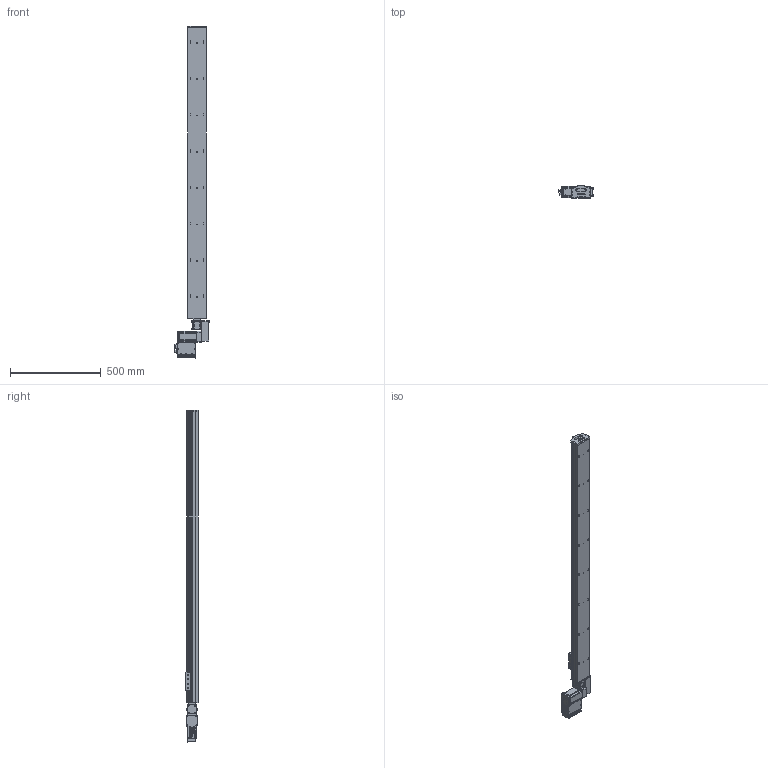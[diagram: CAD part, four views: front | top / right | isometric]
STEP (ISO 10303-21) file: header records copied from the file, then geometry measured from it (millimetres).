
FILE_DESCRIPTION (( 'STEP AP203' ), '1' );
FILE_NAME ('S10 TBN LH S1600.STEP', '2012-06-18T09:44:15', ( 'Conseil Régional Haute-Normandie' ), ( 'Conseil Régional Haute-Normandie' ), 'SwSTEP 2.0', 'SolidWorks 2010', '' );
FILE_SCHEMA (( 'CONFIG_CONTROL_DESIGN' ));
Products named in the file (29): T_X2_00F4_X0_le Arri_X2_00E8_X0_re_5; Cvis M5 L30_Default; embout; palette tbn; Vis M5 L16-2_Default_1; vis M5 L5_Default; BU45 Carte d''axe A11_5; axe 1600; S10 TBN LH S1600; Assem1_7; T_X2_00F4_X0_le contre le moteur_5; BU41 Carte Alimentation P05_3; Colonnette_3; Moteur 60BLDC90A_3; Couvercle_3; T_X2_00F4_X0_le fond_3; Connecteur rond D10 3cts_5; Connecteur rond D12 4cts_5; Sub D 9cts 90_X2_00B_X0__3; Radiateur profil_X2_00E9_X0_ 100x25_3; Colonnette ronde_3; T_X2_00F4_X0_le lat_X2_00E9_X0_rale_5; Vis TF 3 torkx_1_1; cache t皻e axe_Default; cache t皻e_Default; plaque de bout s10_Default; Plaque racord_Default; renvoi LH_Default; vis M5 L12_Default
Assembly tree (62 placements, depth 3):
  S10 TBN LH S1600
    vis M5 L5_Default  x4
    Assem1_7
      Vis TF 3 torkx_1_1  x21
      T_X2_00F4_X0_le contre le moteur_5
      Connecteur rond D10 3cts_5  x2
      Colonnette ronde_3
      Sub D 9cts 90_X2_00B_X0__3
      Moteur 60BLDC90A_3
      Couvercle_3
      Colonnette_3  x2
      T_X2_00F4_X0_le fond_3
      T_X2_00F4_X0_le Arri_X2_00E8_X0_re_5
      BU41 Carte Alimentation P05_3
      Connecteur rond D12 4cts_5
      T_X2_00F4_X0_le lat_X2_00E9_X0_rale_5  x2
      BU45 Carte d''axe A11_5
      Radiateur profil_X2_00E9_X0_ 100x25_3
    axe 1600
    cache t皻e_Default  x2
    Plaque racord_Default
    vis M5 L12_Default  x4
    Cvis M5 L30_Default  x2
    plaque de bout s10_Default
    embout
    renvoi LH_Default
    Vis M5 L16-2_Default_1  x4
    palette tbn
    cache t皻e axe_Default
Bounding box: 189.8 x 66.75 x 1828.5 mm (x, y, z)
Volume: 9164424.5 mm3; surface area: 1080177.1 mm2
Topology: 61 solids, 61 shells, 2321 faces, 5754 edges, 3707 vertices
Faces by surface type: plane 1102, cylinder 994, cone 182, bspline 40, torus 3
Entity records: 48307 total; most frequent: CARTESIAN_POINT 8712, DIRECTION 7805, ORIENTED_EDGE 7088, EDGE_CURVE 3544, AXIS2_PLACEMENT_3D 2899, VERTEX_POINT 2311, VECTOR 2007, LINE 2007
